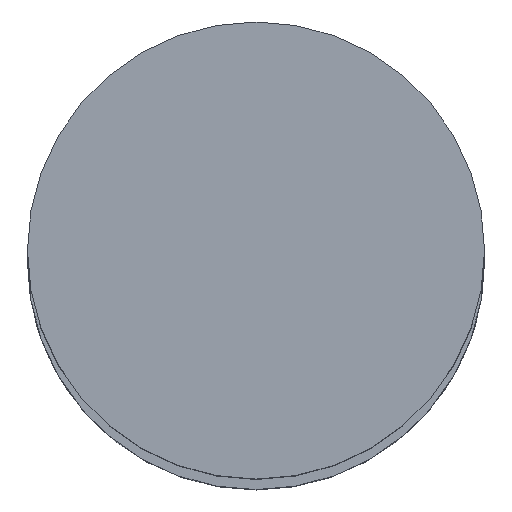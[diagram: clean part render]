
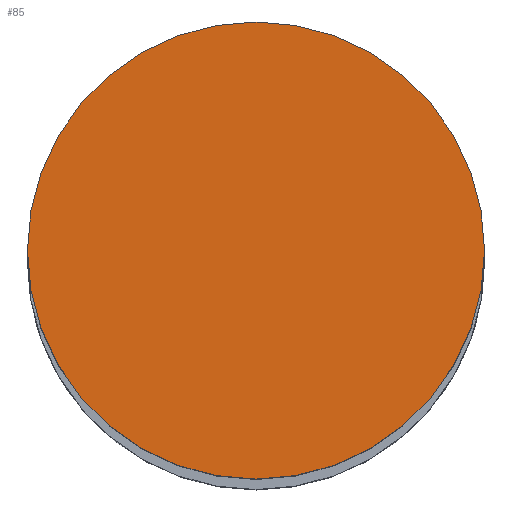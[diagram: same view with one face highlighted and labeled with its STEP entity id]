
A CAD part, top view. The second image highlights one B-rep face of the part: STEP entity #85.
In plain terms, the highlighted planar face has unit normal (0, 0, 1).
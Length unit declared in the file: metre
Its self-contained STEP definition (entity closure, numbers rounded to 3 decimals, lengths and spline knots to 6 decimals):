
#85=ADVANCED_FACE('56:4857',(#165),#166,.F.);
#165=FACE_OUTER_BOUND('',#244,.T.);
#166=PLANE('',#245);
#244=EDGE_LOOP('',(#390,#391));
#245=AXIS2_PLACEMENT_3D('',#392,#393,#394);
#390=ORIENTED_EDGE('',*,*,#433,.F.);
#391=ORIENTED_EDGE('',*,*,#478,.F.);
#392=CARTESIAN_POINT('',(-0.000092,0.000095,3.144));
#393=DIRECTION('',(0.0,0.0,-1.0));
#394=DIRECTION('',(1.0,0.0,0.0));
#433=EDGE_CURVE('27:1418',#505,#501,#507,.T.);
#478=EDGE_CURVE('',#501,#505,#572,.T.);
#501=VERTEX_POINT('',#607);
#505=VERTEX_POINT('',#612);
#507=CIRCLE('',#615,0.0155);
#572=CIRCLE('',#694,0.0155);
#607=CARTESIAN_POINT('',(0.015408,0.000095,3.144));
#612=CARTESIAN_POINT('',(-0.015592,0.000095,3.144));
#615=AXIS2_PLACEMENT_3D('',#736,#737,#738);
#694=AXIS2_PLACEMENT_3D('',#801,#802,#803);
#736=CARTESIAN_POINT('',(-0.000092,0.000095,3.144));
#737=DIRECTION('',(0.0,0.0,-1.0));
#738=DIRECTION('',(1.0,0.0,0.0));
#801=CARTESIAN_POINT('',(-0.000092,0.000095,3.144));
#802=DIRECTION('',(0.0,0.0,-1.0));
#803=DIRECTION('',(1.0,0.0,0.0));
